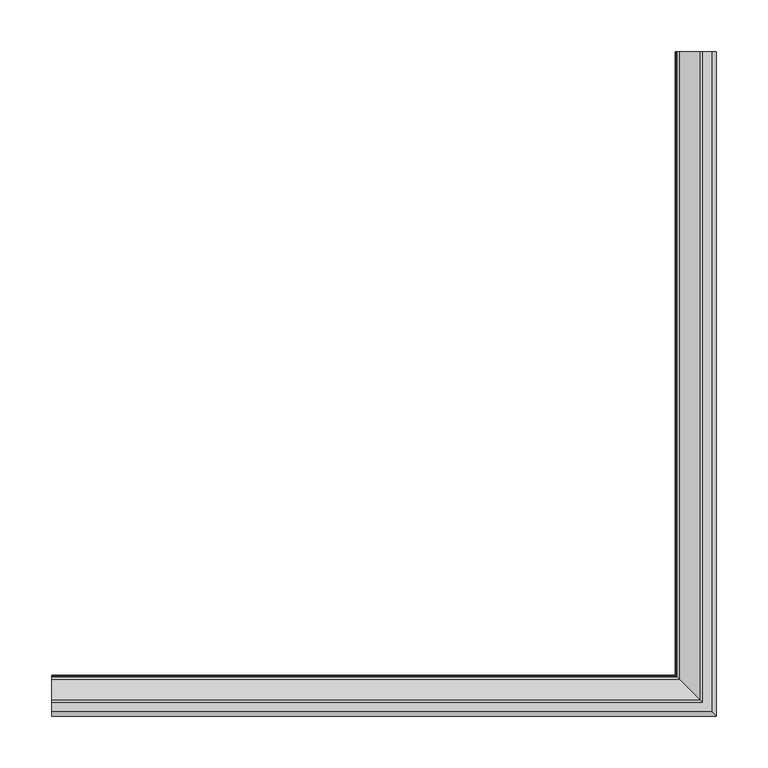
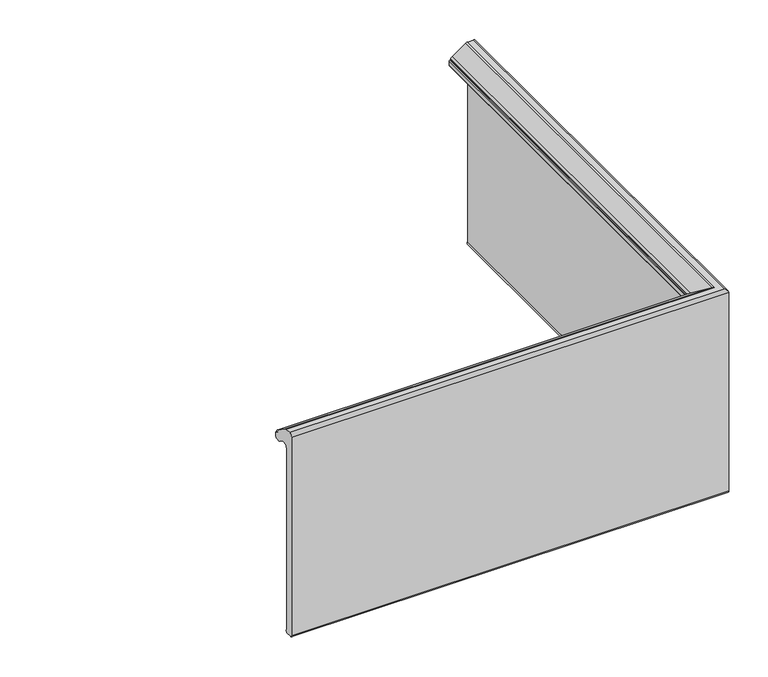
"""IFC4 building model written with IfcOpenShell, lengths in millimetres: proxy geometry, ROSA GRES_EJ6 : Pieza EJ6_Tao_Beige_Anti-Slip."""

from ifc_helpers import new_model, si_unit, frame, origin, place, context, project, spatial, polyline, circle_curve, ellipse_curve, source, transform, mapped, element, save
from ifc_brep_helpers import plane_surface, cylinder_surface, revolved_surface, advanced_brep


def generic_models_f3f570df(model_context):
    return source(origin(), model_context, "Body", "AdvancedBrep", [
        advanced_brep(
        [(-631.5203405, 23.1626329, 121.739904), (-631.5203405, 25.1262743, 118.833606), (-631.5203405, 25.1262743, 117.9278951), (-631.5203405, 26.1221068, 117.026679), (-631.5203405, 27.1188383, 116.1164732), (-631.5203405, 27.1188383, 109.7759696), (-631.5203405, 24.4017055, 107.0588368), (-631.5203405, 18.2354274, 107.0588368), (-631.5203405, 10.7276172, 111.9068599), (-631.5203405, 0.0, 105.8154523), (-631.5203405, 0.0, -175.7431848), (-631.5203405, -1.795134, -180.5000001), (-631.5203405, -10.0781008, -180.5), (-631.5203405, -12.7946269, -177.7811948), (-631.5203405, -12.7946269, 132.021431), (-631.5203405, -8.2984975, 136.5), (-631.5203405, 0.2793766, 136.5), (-631.5203405, 2.84429, 135.7036065), (-22.2033139, 632.4796595, 121.739904), (-1.8849709, 632.4796595, 135.7036065), (0.6799424, 632.4796595, 136.5), (9.2578166, 632.4796595, 136.5), (13.7860954, 632.4796595, 132.021431), (13.7539459, 632.4796595, -177.7811948), (11.0374199, 632.4796595, -180.4983276), (2.754453, 632.4796595, -180.5), (0.9593191, 632.4796595, -175.7431848), (0.9593191, 632.4796595, 105.8154523), (-9.7682982, 632.4796595, 111.9068599), (-17.2761084, 632.4796595, 107.0588368), (-23.4423865, 632.4796595, 107.0588368), (-26.1595193, 632.4796595, 109.7759696), (-26.1595193, 632.4796595, 116.1164732), (-25.1636867, 632.4796595, 117.0176893), (-24.1669552, 632.4796595, 117.9278951), (-24.1669552, 632.4796595, 118.833606), (-22.2033139, 23.1626329, 121.739904), (-24.1669552, 25.1262743, 118.833606), (-24.1669552, 25.1262743, 117.9278951), (-25.1627878, 26.1221068, 117.026679), (-26.1595193, 27.1188383, 116.1164732), (-26.1595193, 27.1188383, 109.7759696), (-23.4423865, 24.4017055, 107.0588368), (-17.2761084, 18.2354274, 107.0588368), (-9.7682982, 10.7276172, 111.9068599), (0.9593191, 0.0, 105.8154523), (0.9593191, 0.0, -175.7431848), (2.754453, -1.795134, -180.5000001), (11.0374199, -10.0781008, -180.5), (13.753946, -12.7946269, -177.7811948), (13.7539459, -12.7946269, 132.021431), (9.2578166, -8.2984975, 136.5), (0.6799424, 0.2793766, 136.5), (-1.8849709, 2.84429, 135.7036065)],
        [
            (0, 1, circle_curve(frame((-631.5203405, 20.0468365, 117.5181983), z_axis=(-1.0, 0.0, 0.0), x_axis=(0.0, 1.0, 0.0)), 5.2469978)),
            (1, 2),
            (2, 3, circle_curve(frame((-631.5203405, 26.0319852, 117.9278951), z_axis=(1.0, 0.0, 0.0), x_axis=(0.0, 1.0, 0.0)), 0.9057109)),
            (3, 4, circle_curve(frame((-631.5203405, 26.2131274, 116.1164732), z_axis=(-1.0, 0.0, 0.0), x_axis=(0.0, 1.0, 0.0)), 0.9057109)),
            (4, 5),
            (5, 6, circle_curve(frame((-631.5203405, 24.4017055, 109.7759696), z_axis=(-1.0, 0.0, 0.0), x_axis=(0.0, 1.0, 0.0)), 2.7171328)),
            (6, 7),
            (7, 8),
            (8, 9, circle_curve(frame((-631.5203405, 6.7956336, 106.3395598), z_axis=(1.0, 0.0, 0.0), x_axis=(0.0, 1.0, 0.0)), 6.8158144)),
            (9, 10),
            (10, 11, circle_curve(frame((-631.5203405, -1.795134, -177.7828673), z_axis=(-1.0, 0.0, 0.0), x_axis=(0.0, 1.0, 0.0)), 2.7171328)),
            (11, 12),
            (12, 13, circle_curve(frame((-631.5203405, -10.0774941, -177.7811948), z_axis=(-1.0, 0.0, 0.0), x_axis=(0.0, 1.0, 0.0)), 2.7171328)),
            (13, 14),
            (14, 15, circle_curve(frame((-631.5203405, -8.2984975, 131.9714453), z_axis=(-1.0, 0.0, 0.0), x_axis=(0.0, 1.0, 0.0)), 4.5285547)),
            (15, 16),
            (16, 17, circle_curve(frame((-631.5203405, 0.2793766, 131.9714453), z_axis=(-1.0, 0.0, 0.0), x_axis=(0.0, 1.0, 0.0)), 4.5285547)),
            (17, 0),
            (18, 19),
            (19, 20, circle_curve(frame((0.6799424, 632.4796595, 131.9714453), z_axis=(0.0, 1.0, 0.0), x_axis=(-1.0, 0.0, 0.0)), 4.5285547)),
            (20, 21),
            (21, 22, circle_curve(frame((9.2578166, 632.4796595, 131.9714453), z_axis=(0.0, 1.0, 0.0), x_axis=(-1.0, 0.0, 0.0)), 4.5285547)),
            (22, 23),
            (23, 24, circle_curve(frame((11.0368132, 632.4796595, -177.7811948), z_axis=(0.0, 1.0, 0.0), x_axis=(-1.0, 0.0, 0.0)), 2.7171328)),
            (24, 25),
            (25, 26, circle_curve(frame((2.754453, 632.4796595, -177.7828673), z_axis=(0.0, 1.0, 0.0), x_axis=(-1.0, 0.0, 0.0)), 2.7171328)),
            (26, 27),
            (27, 28, circle_curve(frame((-5.8363146, 632.4796595, 106.3395598), z_axis=(0.0, -1.0, 0.0), x_axis=(-1.0, 0.0, 0.0)), 6.8158144)),
            (28, 29),
            (29, 30),
            (30, 31, circle_curve(frame((-23.4423865, 632.4796595, 109.7759696), z_axis=(0.0, 1.0, 0.0), x_axis=(-1.0, 0.0, 0.0)), 2.7171328)),
            (31, 32),
            (32, 33, circle_curve(frame((-25.2538083, 632.4796595, 116.1164732), z_axis=(0.0, 1.0, 0.0), x_axis=(-1.0, 0.0, 0.0)), 0.9057109)),
            (33, 34, circle_curve(frame((-25.0726661, 632.4796595, 117.9278951), z_axis=(0.0, -1.0, 0.0), x_axis=(-1.0, 0.0, 0.0)), 0.9057109)),
            (34, 35),
            (35, 18, circle_curve(frame((-19.0875174, 632.4796595, 117.5181983), z_axis=(0.0, 1.0, 0.0), x_axis=(-1.0, 0.0, 0.0)), 5.2469978)),
            (0, 36),
            (36, 37, ellipse_curve(frame((-19.0875174, 20.0468365, 117.5181983), z_axis=(-0.7071067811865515, -0.7071067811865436, 0.0), x_axis=(-0.7071067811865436, 0.7071067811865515, 0.0)), 7.4203754, 5.2469978)),
            (37, 1),
            (37, 38),
            (38, 2),
            (38, 39, ellipse_curve(frame((-25.0726661, 26.0319852, 117.9278951), z_axis=(0.7071067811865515, 0.7071067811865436, 0.0), x_axis=(0.7071067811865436, -0.7071067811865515, 0.0)), 1.2808687, 0.9057109)),
            (39, 3),
            (39, 40, ellipse_curve(frame((-25.2538083, 26.2131274, 116.1164732), z_axis=(-0.7071067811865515, -0.7071067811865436, 0.0), x_axis=(-0.7071067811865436, 0.7071067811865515, 0.0)), 1.2808687, 0.9057109)),
            (40, 4),
            (40, 41),
            (41, 5),
            (41, 42, ellipse_curve(frame((-23.4423865, 24.4017055, 109.7759696), z_axis=(-0.7071067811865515, -0.7071067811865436, 0.0), x_axis=(-0.7071067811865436, 0.7071067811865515, 0.0)), 3.8426061, 2.7171328)),
            (42, 6),
            (42, 30),
            (29, 43),
            (43, 7),
            (43, 44),
            (44, 8),
            (44, 45, ellipse_curve(frame((-5.8363146, 6.7956336, 106.3395598), z_axis=(0.7071067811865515, 0.7071067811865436, 0.0), x_axis=(0.7071067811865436, -0.7071067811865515, 0.0)), 9.6390171, 6.8158144)),
            (45, 9),
            (45, 46),
            (46, 10),
            (46, 47, ellipse_curve(frame((2.754453, -1.795134, -177.7828673), z_axis=(-0.7071067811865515, -0.7071067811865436, 0.0), x_axis=(-0.7071067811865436, 0.7071067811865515, 0.0)), 3.8426061, 2.7171328)),
            (47, 11),
            (47, 25),
            (24, 48),
            (48, 12),
            (48, 49, ellipse_curve(frame((11.0368132, -10.0774941, -177.7811948), z_axis=(-0.7071067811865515, -0.7071067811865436, 0.0), x_axis=(-0.7071067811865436, 0.7071067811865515, 0.0)), 3.8426061, 2.7171328)),
            (49, 13),
            (49, 50),
            (50, 14),
            (50, 51, ellipse_curve(frame((9.2578166, -8.2984975, 131.9714453), z_axis=(-0.7071067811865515, -0.7071067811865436, 0.0), x_axis=(-0.7071067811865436, 0.7071067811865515, 0.0)), 6.4043434, 4.5285547)),
            (51, 15),
            (51, 21),
            (20, 52),
            (52, 16),
            (52, 53, ellipse_curve(frame((0.6799424, 0.2793766, 131.9714453), z_axis=(-0.7071067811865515, -0.7071067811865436, 0.0), x_axis=(-0.7071067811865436, 0.7071067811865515, 0.0)), 6.4043434, 4.5285547)),
            (53, 17),
            (53, 36),
            (36, 18),
            (35, 37),
            (34, 38),
            (33, 39),
            (32, 40),
            (31, 41),
            (28, 44),
            (27, 45),
            (26, 46),
            (23, 49),
            (22, 50),
            (19, 53),
        ],
        [
            plane_surface(frame((-631.5203405, 0.4796595, 0.0), z_axis=(-1.0, 0.0, 0.0), x_axis=(0.0, 0.0, 1.0))),
            plane_surface(frame((0.4796595, 632.4796595, 0.0), z_axis=(0.0, 1.0, 0.0), x_axis=(0.0, 0.0, 1.0))),
            cylinder_surface(frame((-631.5203405, 20.0468365, 117.5181983), z_axis=(-1.0, 0.0, 0.0), x_axis=(0.0, 1.0, 0.0)), 5.2469978),
            plane_surface(frame((-631.5203405, 25.1262743, 118.833606), z_axis=(0.0, 1.0, 0.0), x_axis=(1.0, 0.0, 0.0))),
            revolved_surface(polyline([(-24.166955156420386, 26.9376961, 117.9278951), (-631.5203405, 26.9376961, 117.9278951)]), (-631.5203405, 26.0319852, 117.9278951), (1.0, 0.0, 0.0)),
            cylinder_surface(frame((-631.5203405, 26.2131274, 116.1164732), z_axis=(-1.0, 0.0, 0.0), x_axis=(0.0, 1.0, 0.0)), 0.9057109),
            plane_surface(frame((-631.5203405, 27.1188383, 116.1164732), z_axis=(0.0, 1.0, 0.0), x_axis=(1.0, 0.0, 0.0))),
            cylinder_surface(frame((-631.5203405, 24.4017055, 109.7759696), z_axis=(-1.0, 0.0, 0.0), x_axis=(0.0, 1.0, 0.0)), 2.7171328),
            plane_surface(frame((-631.5203405, 24.4017055, 107.0588368), z_axis=(0.0, 0.0, -1.0), x_axis=(1.0, 0.0, 0.0))),
            plane_surface(frame((-631.5203405, 18.2354274, 107.0588368), z_axis=(0.0, -0.5424645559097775, -0.8400786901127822), x_axis=(1.0, 0.0, 0.0))),
            revolved_surface(polyline([(0.9794997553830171, 13.611448, 106.3395598), (-631.5203405, 13.611448, 106.3395598)]), (-631.5203405, 6.7956336, 106.3395598), (1.0, 0.0, 0.0)),
            plane_surface(frame((-631.5203405, 0.0, 105.8154523), z_axis=(0.0, 1.0, 0.0), x_axis=(1.0, 0.0, 0.0))),
            cylinder_surface(frame((-631.5203405, -1.795134, -177.7828673), z_axis=(-1.0, 0.0, 0.0), x_axis=(0.0, 1.0, 0.0)), 2.7171328),
            plane_surface(frame((-631.5203405, -1.795134, -180.5), z_axis=(0.0, 0.0, -1.0), x_axis=(1.0, 0.0, 0.0))),
            cylinder_surface(frame((-631.5203405, -10.0774941, -177.7811948), z_axis=(-1.0, 0.0, 0.0), x_axis=(0.0, 1.0, 0.0)), 2.7171328),
            plane_surface(frame((-631.5203405, -12.7946269, -177.7811948), z_axis=(0.0, -1.0, 0.0), x_axis=(1.0, 0.0, 0.0))),
            cylinder_surface(frame((-631.5203405, -8.2984975, 131.9714453), z_axis=(-1.0, 0.0, 0.0), x_axis=(0.0, 1.0, 0.0)), 4.5285547),
            plane_surface(frame((-631.5203405, -8.2984975, 136.5), z_axis=(0.0, 0.0, 1.0), x_axis=(1.0, 0.0, 0.0))),
            cylinder_surface(frame((-631.5203405, 0.2793766, 131.9714453), z_axis=(-1.0, 0.0, 0.0), x_axis=(0.0, 1.0, 0.0)), 4.5285547),
            plane_surface(frame((-631.5203405, 2.84429, 135.7036065), z_axis=(0.0, 0.5663867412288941, 0.8241395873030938), x_axis=(1.0, 0.0, 0.0))),
            cylinder_surface(frame((-19.0875174, 0.4796595, 117.5181983), z_axis=(0.0, -1.0, 0.0), x_axis=(-1.0, 0.0, 0.0)), 5.2469978),
            plane_surface(frame((-24.1669552, 25.1262743, 118.833606), z_axis=(-1.0, 0.0, 0.0), x_axis=(0.0, 1.0, 0.0))),
            revolved_surface(polyline([(-25.978377, 632.4796595, 117.9278951), (-25.978377, 25.1262742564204, 117.9278951)]), (-25.0726661, 0.4796595, 117.9278951), (0.0, 1.0, 0.0)),
            cylinder_surface(frame((-25.2538083, 0.4796595, 116.1164732), z_axis=(0.0, -1.0, 0.0), x_axis=(-1.0, 0.0, 0.0)), 0.9057109),
            plane_surface(frame((-26.1595193, 27.1188383, 116.1164732), z_axis=(-1.0, 0.0, 0.0), x_axis=(0.0, 1.0, 0.0))),
            cylinder_surface(frame((-23.4423865, 0.4796595, 109.7759696), z_axis=(0.0, -1.0, 0.0), x_axis=(-1.0, 0.0, 0.0)), 2.7171328),
            plane_surface(frame((-17.2761084, 18.2354274, 107.0588368), z_axis=(0.5424645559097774, 0.0, -0.8400786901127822), x_axis=(0.0, 1.0, 0.0))),
            revolved_surface(polyline([(-12.652128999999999, 632.4796595, 106.3395598), (-12.652128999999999, -0.020180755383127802, 106.3395598)]), (-5.8363146, 0.4796595, 106.3395598), (0.0, 1.0, 0.0)),
            plane_surface(frame((0.9593191, 0.0, 105.8154523), z_axis=(-1.0, 0.0, 0.0), x_axis=(0.0, 1.0, 0.0))),
            cylinder_surface(frame((2.754453, 0.4796595, -177.7828673), z_axis=(0.0, -1.0, 0.0), x_axis=(-1.0, 0.0, 0.0)), 2.7171328),
            cylinder_surface(frame((11.0368132, 0.4796595, -177.7811948), z_axis=(0.0, -1.0, 0.0), x_axis=(-1.0, 0.0, 0.0)), 2.7171328),
            plane_surface(frame((13.7539459, -12.7946269, -177.7811948), z_axis=(1.0, 0.0, 0.0), x_axis=(0.0, 1.0, 0.0))),
            cylinder_surface(frame((9.2578166, 0.4796595, 131.9714453), z_axis=(0.0, -1.0, 0.0), x_axis=(-1.0, 0.0, 0.0)), 4.5285547),
            cylinder_surface(frame((0.6799424, 0.4796595, 131.9714453), z_axis=(0.0, -1.0, 0.0), x_axis=(-1.0, 0.0, 0.0)), 4.5285547),
            plane_surface(frame((-1.8849709, 2.84429, 135.7036065), z_axis=(-0.5663867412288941, 0.0, 0.8241395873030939), x_axis=(0.0, 1.0, 0.0))),
        ],
        [
            (0, [[1, 2, 3, 4, 5, 6, 7, 8, 9, 10, 11, 12, 13, 14, 15, 16, 17, 18]]),
            (1, [[19, 20, 21, 22, 23, 24, 25, 26, 27, 28, 29, 30, 31, 32, 33, 34, 35, 36]]),
            (2, [[-1, 37, 38, 39]]),
            (3, [[-2, -39, 40, 41]]),
            (4, [[-3, -41, 42, 43]]),
            (5, [[-4, -43, 44, 45]]),
            (6, [[-5, -45, 46, 47]]),
            (7, [[-6, -47, 48, 49]]),
            (8, [[-7, -49, 50, -30, 51, 52]]),
            (9, [[-8, -52, 53, 54]]),
            (10, [[-9, -54, 55, 56]]),
            (11, [[-10, -56, 57, 58]]),
            (12, [[-11, -58, 59, 60]]),
            (13, [[-12, -60, 61, -25, 62, 63]]),
            (14, [[-13, -63, 64, 65]]),
            (15, [[-14, -65, 66, 67]]),
            (16, [[-15, -67, 68, 69]]),
            (17, [[-16, -69, 70, -21, 71, 72]]),
            (18, [[-17, -72, 73, 74]]),
            (19, [[-18, -74, 75, -37]]),
            (20, [[-38, 76, -36, 77]]),
            (21, [[-40, -77, -35, 78]]),
            (22, [[-42, -78, -34, 79]]),
            (23, [[-44, -79, -33, 80]]),
            (24, [[-46, -80, -32, 81]]),
            (25, [[-48, -81, -31, -50]]),
            (26, [[-53, -51, -29, 82]]),
            (27, [[-55, -82, -28, 83]]),
            (28, [[-57, -83, -27, 84]]),
            (29, [[-59, -84, -26, -61]]),
            (30, [[-64, -62, -24, 85]]),
            (31, [[-66, -85, -23, 86]]),
            (32, [[-68, -86, -22, -70]]),
            (33, [[-73, -71, -20, 87]]),
            (34, [[-75, -87, -19, -76]]),
        ],
    ),
    ])


if __name__ == "__main__":
    model = new_model("IFC4")
    model_context = context("Model", 3, world=origin())
    ifc_project = project(units=[si_unit("LENGTHUNIT", "METRE", prefix="MILLI")], contexts=[model_context])
    site = spatial("IfcSite", under=ifc_project)
    building = spatial("IfcBuilding", under=site)
    placement = place(None, origin())
    generic_models_shape = generic_models_f3f570df(model_context)
    element("IfcBuildingElementProxy", 1, Name="ROSA GRES_EJ6 : Pieza EJ6_Tao_Beige_Anti-Slip", ObjectType="ROSA GRES_EJ6 : Pieza EJ6_Tao_Beige_Anti-Slip", at=placement, inside=building, context=model_context, shape_type="MappedRepresentation", body=[
        mapped(generic_models_shape, transform((0.0, 0.0, 0.0), x_axis=(1.0, 0.0, 0.0), y_axis=(0.0, 1.0, 0.0), z_axis=(0.0, 0.0, 1.0))),
    ])
    save(model, "model.ifc")
